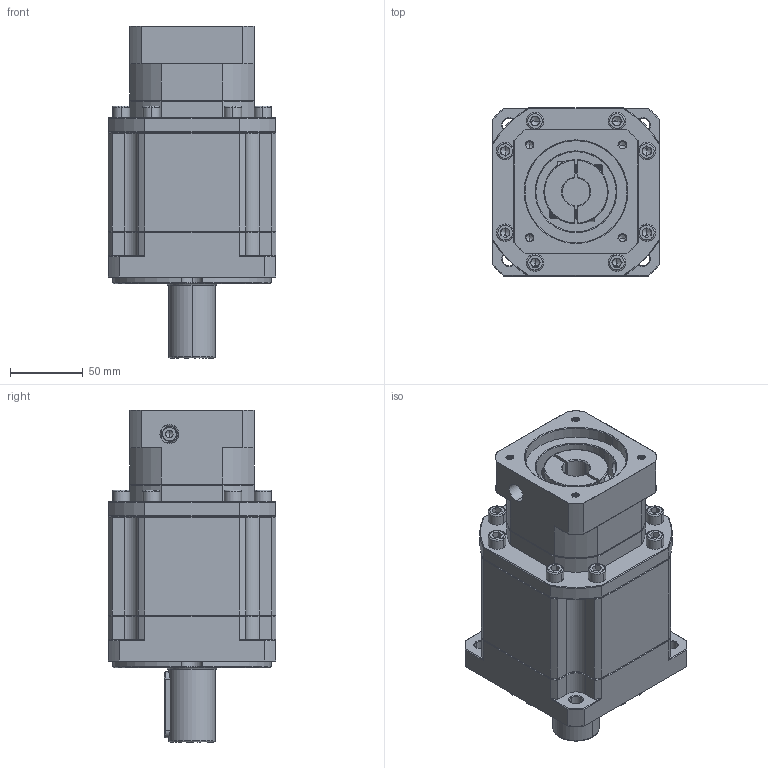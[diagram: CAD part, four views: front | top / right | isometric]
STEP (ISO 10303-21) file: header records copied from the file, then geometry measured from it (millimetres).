
FILE_DESCRIPTION (( 'STEP AP214' ), '1' );
FILE_NAME ('ZB115A-D32-L3-19-70-90-M6.step', '2023-03-03T09:56:37', ( '' ), ( 'Microsoft' ), 'SwSTEP 2.0', 'SolidWorks 2016', '' );
FILE_SCHEMA (( 'AUTOMOTIVE_DESIGN' ));
Length unit declared in the file: millimetre
Products named in the file (1): ZB115A-D32-L3-19-70-90-M6
Bounding box: 115 x 115 x 227.5 mm (x, y, z)
Volume: 1706253.5 mm3; surface area: 144803.9 mm2
Topology: 5 solids, 5 shells, 2104 faces, 5467 edges, 3457 vertices
Faces by surface type: plane 1000, cylinder 419, bspline 344, cone 341
Entity records: 111882 total; most frequent: CARTESIAN_POINT 40281, ORIENTED_EDGE 10858, DIRECTION 8805, EDGE_CURVE 5429, VERTEX_POINT 3457, VECTOR 3399, LINE 3399, AXIS2_PLACEMENT_3D 2703
